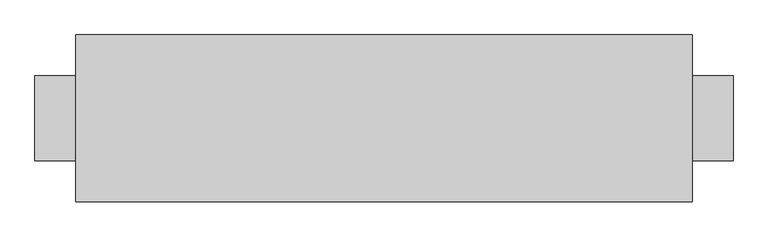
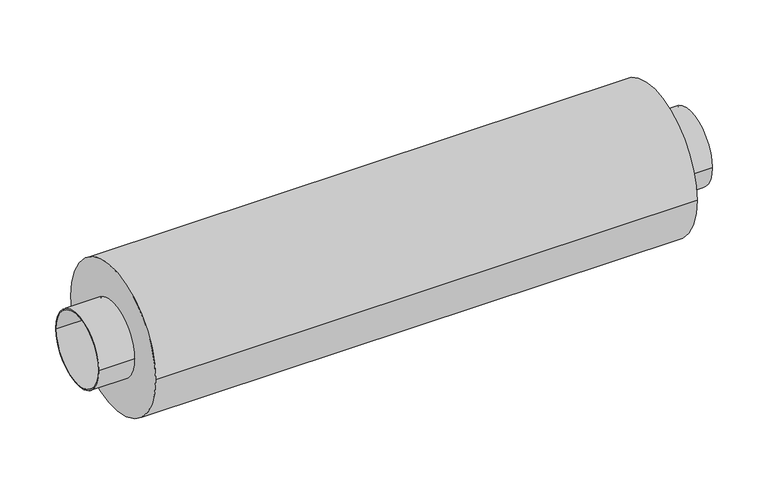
"""IFC4 building model written with IfcOpenShell, lengths in millimetres: damper geometry, СВ_Шумоглушитель_КанальныйКруглый_DN100-315_SHK : SHK-125/900."""

from ifc_helpers import new_model, si_unit, point, frame, origin, origin_2d, place, context, project, spatial, circle_curve, trimmed, segment, composite_curve, outline, extrude, source, transform, mapped, element, save


def damper_0c9d338b(model_context):
    return source(origin(), model_context, "Body", "SweptSolid", [
        extrude(outline(composite_curve([segment(trimmed(circle_curve(origin_2d(), 122.0), [point((-122.0, 0.0))], [point((122.0, 0.0))], False, "CARTESIAN"), True, "CONTINUOUS"), segment(trimmed(circle_curve(origin_2d(), 122.0), [point((122.0, 0.0))], [point((-122.0, 0.0))], False, "CARTESIAN"), True, "CONTINUOUS")], self_intersect=False)), frame((-450.0, 0.0, 0.0), z_axis=(1.0, 0.0, 0.0), x_axis=(0.0, 1.0, 0.0)), (0.0, 0.0, 1.0), 900.0),
        extrude(outline(composite_curve([segment(trimmed(circle_curve(origin_2d(), 62.0), [point((-62.0, 0.0))], [point((62.0, 0.0))], False, "CARTESIAN"), True, "CONTINUOUS"), segment(trimmed(circle_curve(origin_2d(), 62.0), [point((62.0, 0.0))], [point((-62.0, 0.0))], False, "CARTESIAN"), True, "CONTINUOUS")], self_intersect=False), holes=[composite_curve([segment(trimmed(circle_curve(origin_2d(), 60.0), [point((-60.0, 0.0))], [point((60.0, 0.0))], True, "CARTESIAN"), True, "CONTINUOUS"), segment(trimmed(circle_curve(origin_2d(), 60.0), [point((60.0, 0.0))], [point((-60.0, 0.0))], True, "CARTESIAN"), True, "CONTINUOUS")], self_intersect=False)]), frame((-510.0, 0.0, 0.0), z_axis=(1.0, 0.0, 0.0), x_axis=(0.0, 1.0, 0.0)), (0.0, 0.0, 1.0), 60.0),
        extrude(outline(composite_curve([segment(trimmed(circle_curve(origin_2d(), 62.0), [point((-62.0, 0.0))], [point((62.0, 0.0))], False, "CARTESIAN"), True, "CONTINUOUS"), segment(trimmed(circle_curve(origin_2d(), 62.0), [point((62.0, 0.0))], [point((-62.0, 0.0))], False, "CARTESIAN"), True, "CONTINUOUS")], self_intersect=False), holes=[composite_curve([segment(trimmed(circle_curve(origin_2d(), 60.0), [point((-60.0, 0.0))], [point((60.0, 0.0))], True, "CARTESIAN"), True, "CONTINUOUS"), segment(trimmed(circle_curve(origin_2d(), 60.0), [point((60.0, 0.0))], [point((-60.0, 0.0))], True, "CARTESIAN"), True, "CONTINUOUS")], self_intersect=False)]), frame((450.0, 0.0, 0.0), z_axis=(1.0, 0.0, 0.0), x_axis=(0.0, 1.0, 0.0)), (0.0, 0.0, 1.0), 60.0),
    ])


if __name__ == "__main__":
    model = new_model("IFC4")
    model_context = context("Model", 3, world=origin())
    ifc_project = project(units=[si_unit("LENGTHUNIT", "METRE", prefix="MILLI")], contexts=[model_context])
    site = spatial("IfcSite", under=ifc_project)
    building = spatial("IfcBuilding", under=site)
    placement = place(None, origin())
    damper_shape = damper_0c9d338b(model_context)
    element("IfcDamper", 1, ObjectType="СВ_Шумоглушитель_КанальныйКруглый_DN100-315_SHK : SHK-125/900", at=placement, inside=building, context=model_context, shape_type="MappedRepresentation", body=[
        mapped(damper_shape, transform((0.0, 0.0, 0.0), x_axis=(1.0, 0.0, 0.0), y_axis=(0.0, 1.0, 0.0), z_axis=(0.0, 0.0, 1.0))),
    ])
    save(model, "model.ifc")
